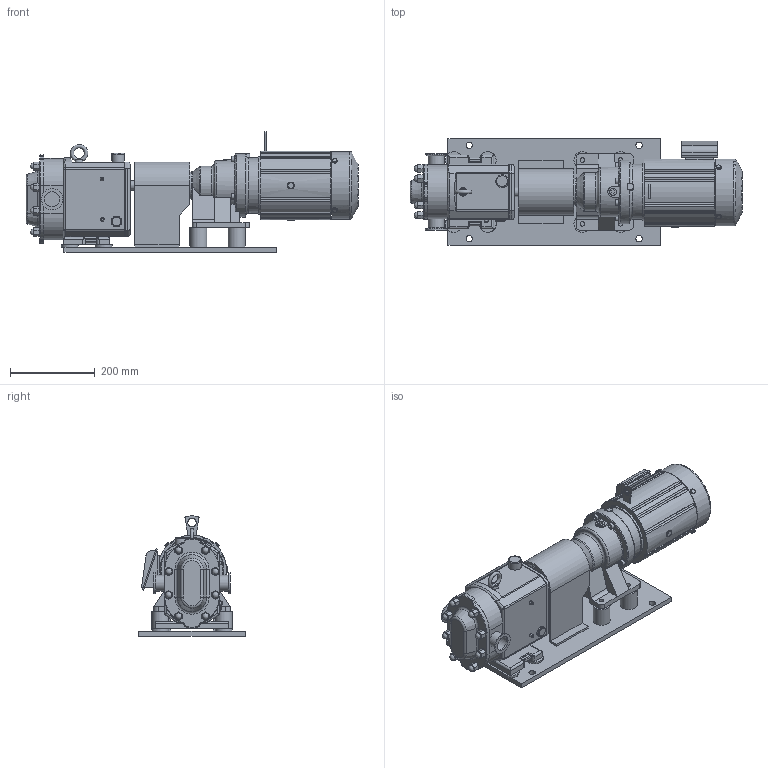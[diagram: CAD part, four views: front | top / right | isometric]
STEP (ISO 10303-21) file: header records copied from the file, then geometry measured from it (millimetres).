
FILE_DESCRIPTION(/* description */ (''),/* implementation_level */ '2;1');
FILE_NAME(/* name */ 'C:\Users\Fujimoto-s\OneDrive\Inventor\Library\_\X2\56F35F6230C730FC30BF\X0\\減速機・モーター・ポンプ\JM16VT-C\JM16VT-C ASSY.stp',/* time_stamp */ '2024-08-09T14:53:33+09:00',/* author */ ('Fujimoto-s'),/* organization */ (''),/* preprocessor_version */ 'ST-DEVELOPER v15.2',/* originating_system */ 'Autodesk Inventor 2014',/* authorisation */ '');
FILE_SCHEMA (('AUTOMOTIVE_DESIGN { 1 0 10303 214 3 1 1 }'));
Length unit declared in the file: millimetre
Products named in the file (11): BOSS; CHHM2-6090SK; FUKURO NUT; L099-S; NAKAKIN-BODY; NAKAKIN-COVER; NAKAKIN-FUTA; NAKAKIN-GEARBOX; TURIBOLT; 台板; JM16VT-C ASSY
Bounding box: 782 x 250 x 283.1 mm (x, y, z)
Volume: 14830456.4 mm3; surface area: 1136508.7 mm2
Topology: 27 solids, 27 shells, 821 faces, 1942 edges, 1217 vertices
Faces by surface type: plane 412, cylinder 217, cone 138, torus 38, sphere 10, bspline 6
Full cylindrical faces by diameter (mm): 6.647 x1, 8 x2, 8.2 x1, 8.88 x4, 10 x1, 11 x4, 12 x12, 13 x4, 15 x4, 15.4 x4, 16 x2, 16.662 x1, 20 x4, 22 x1, 25 x1, 28 x1, 30 x2, 35.7 x2, 38.1 x2, 40 x8, 42.873 x1, 45 x1, 50.5 x2, 64 x1, 64.3 x1, 130 x1, 136 x2, 150 x1
Entity records: 20126 total; most frequent: CARTESIAN_POINT 4362, DIRECTION 3259, ORIENTED_EDGE 2950, EDGE_CURVE 1473, AXIS2_PLACEMENT_3D 1234, VERTEX_POINT 985, EDGE_LOOP 844, LINE 791
